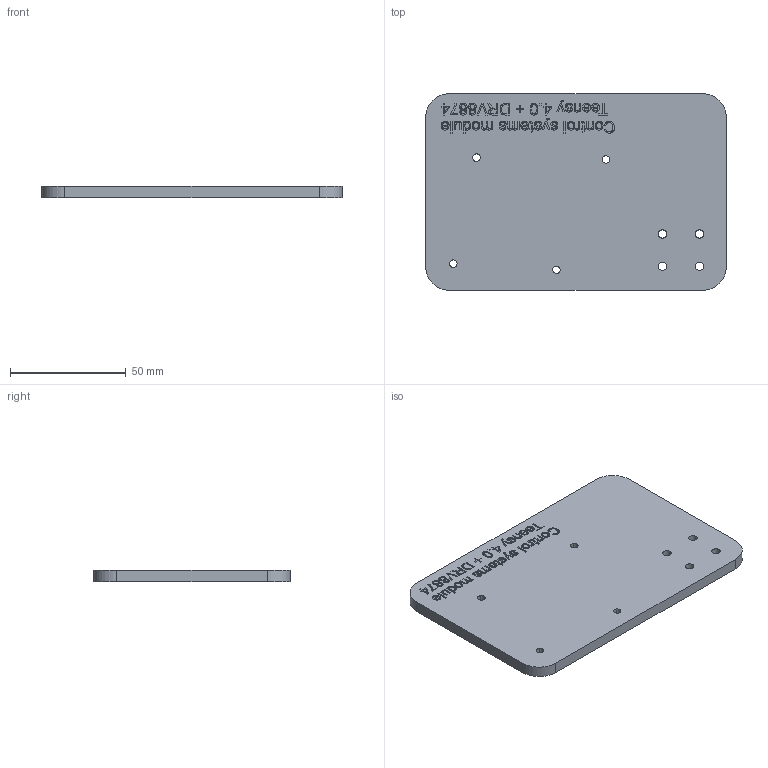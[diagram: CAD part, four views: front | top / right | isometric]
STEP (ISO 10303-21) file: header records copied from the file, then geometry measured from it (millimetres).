
FILE_DESCRIPTION(/* description */ (''),/* implementation_level */ '2;1');
FILE_NAME(/* name */ 'L298N Driver DC Motor, Stepper Motor v12.step',/* time_stamp */ '2025-11-03T21:25:30-05:00',/* author */ (''),/* organization */ (''),/* preprocessor_version */ 'ST-DEVELOPER v20.1',/* originating_system */ 'Autodesk Translation Framework v14.17.0.0',/* authorisation */ '');
FILE_SCHEMA (('AUTOMOTIVE_DESIGN { 1 0 10303 214 3 1 1 }'));
Length unit declared in the file: millimetre
Products named in the file (1): L298N Driver DC Motor, Stepper Motor
Bounding box: 130 x 85 x 5 mm (x, y, z)
Volume: 54236.2 mm3; surface area: 25024.5 mm2
Topology: 1 solids, 1 shells, 798 faces, 2226 edges, 1484 vertices
Faces by surface type: bspline 516, plane 266, cylinder 16
Full cylindrical faces by diameter (mm): 3.646 x4
Entity records: 26182 total; most frequent: CARTESIAN_POINT 9153, ORIENTED_EDGE 4452, EDGE_CURVE 2226, DIRECTION 1792, VERTEX_POINT 1484, LINE 1162, VECTOR 1162, B_SPLINE_CURVE_WITH_KNOTS 1032
